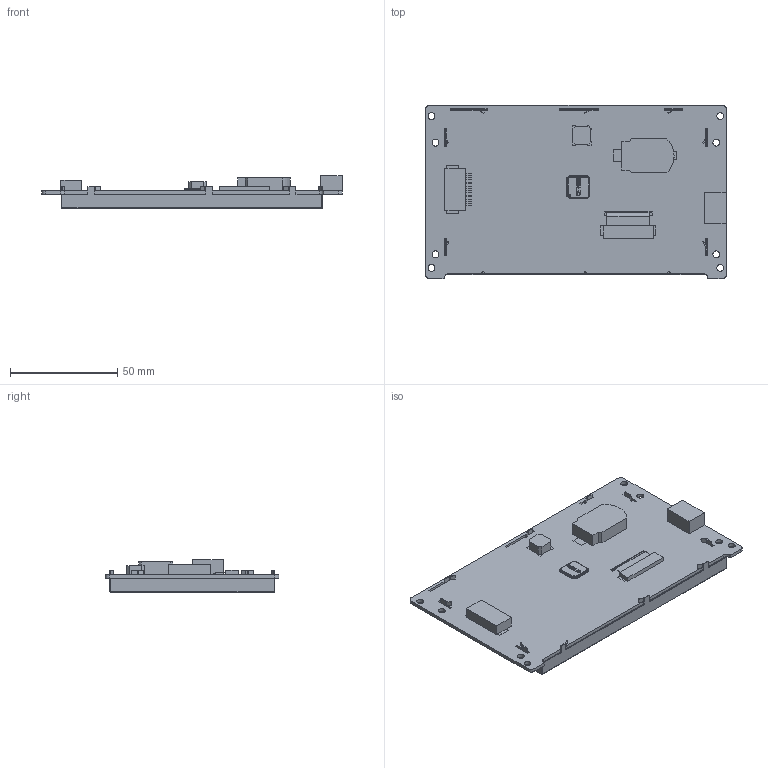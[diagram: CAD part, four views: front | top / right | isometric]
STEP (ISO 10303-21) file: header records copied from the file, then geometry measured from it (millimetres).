
FILE_DESCRIPTION(/* description */ (''),/* implementation_level */ '2;1');
FILE_NAME(/* name */ '',/* time_stamp */ '2023-08-28T14:14:50+08:00',/* author */ (''),/* organization */ (''),/* preprocessor_version */ 'ST-DEVELOPER v11',/* originating_system */ 'SIEMENS PLM Software NX 7.5',/* authorisation */ '');
FILE_SCHEMA (('AP203_CONFIGURATION_CONTROLLED_3D_DESIGN_OF_MECHANICAL_PARTS_AND_ASSEMBLIES_MIM_LF'));
Length unit declared in the file: millimetre
Products named in the file (1): 3D-SDWb050YY94AN_stp
Bounding box: 140 x 80.9 x 15.1 mm (x, y, z)
Volume: 39649.9 mm3; surface area: 53639.4 mm2
Topology: 14 solids, 14 shells, 1357 faces, 3917 edges, 2601 vertices
Faces by surface type: plane 1165, cylinder 185, bspline 7
Full cylindrical faces by diameter (mm): 3.2 x8
Entity records: 45845 total; most frequent: CARTESIAN_POINT 8267, ORIENTED_EDGE 7818, DIRECTION 6905, EDGE_CURVE 3909, LINE 3511, VECTOR 3511, VERTEX_POINT 2601, AXIS2_PLACEMENT_3D 1697
